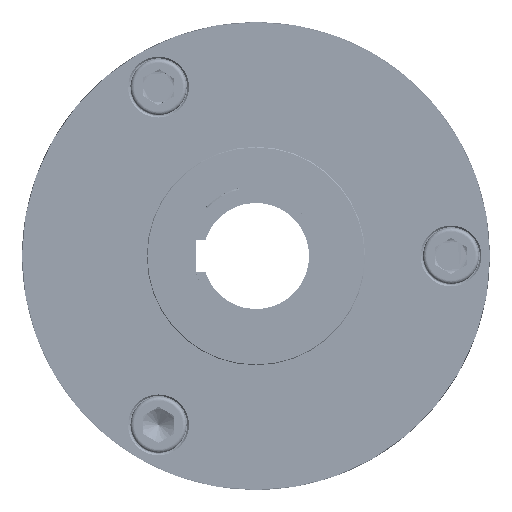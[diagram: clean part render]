
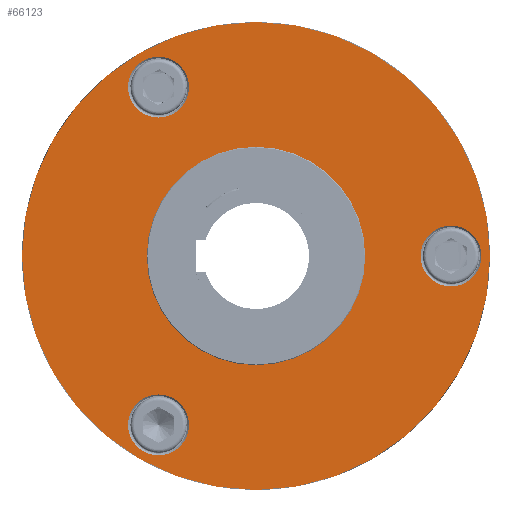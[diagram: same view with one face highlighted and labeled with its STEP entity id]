
A CAD part, left-side view. The second image highlights one B-rep face of the part: STEP entity #66123.
In plain terms, the highlighted planar face has unit normal (-1, 0, 0).
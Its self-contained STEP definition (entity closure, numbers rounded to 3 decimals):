
#8100=FACE_BOUND('',#14573,.T.);
#8101=FACE_BOUND('',#14574,.T.);
#8102=FACE_BOUND('',#14575,.T.);
#8103=FACE_BOUND('',#14576,.T.);
#8676=PLANE('',#69747);
#11057=FACE_OUTER_BOUND('',#14572,.T.);
#14572=EDGE_LOOP('',(#45310));
#14573=EDGE_LOOP('',(#45311));
#14574=EDGE_LOOP('',(#45312));
#14575=EDGE_LOOP('',(#45313));
#14576=EDGE_LOOP('',(#45314));
#24283=CIRCLE('',#69729,75.);
#24292=CIRCLE('',#69744,9.75);
#24295=CIRCLE('',#69748,9.75);
#24296=CIRCLE('',#69749,35.);
#24297=CIRCLE('',#69750,9.75);
#27612=VERTEX_POINT('',#101678);
#27624=VERTEX_POINT('',#101753);
#27627=VERTEX_POINT('',#101761);
#27628=VERTEX_POINT('',#101763);
#27629=VERTEX_POINT('',#101765);
#34664=EDGE_CURVE('',#27612,#27612,#24283,.T.);
#34685=EDGE_CURVE('',#27624,#27624,#24292,.T.);
#34689=EDGE_CURVE('',#27627,#27627,#24295,.T.);
#34690=EDGE_CURVE('',#27628,#27628,#24296,.T.);
#34691=EDGE_CURVE('',#27629,#27629,#24297,.T.);
#45310=ORIENTED_EDGE('',*,*,#34664,.F.);
#45311=ORIENTED_EDGE('',*,*,#34689,.F.);
#45312=ORIENTED_EDGE('',*,*,#34690,.F.);
#45313=ORIENTED_EDGE('',*,*,#34691,.F.);
#45314=ORIENTED_EDGE('',*,*,#34685,.F.);
#66123=ADVANCED_FACE('',(#11057,#8100,#8101,#8102,#8103),#8676,.F.);
#69729=AXIS2_PLACEMENT_3D('',#101679,#79465,#79466);
#69744=AXIS2_PLACEMENT_3D('',#101754,#79504,#79505);
#69747=AXIS2_PLACEMENT_3D('',#101760,#79511,#79512);
#69748=AXIS2_PLACEMENT_3D('',#101762,#79513,#79514);
#69749=AXIS2_PLACEMENT_3D('',#101764,#79515,#79516);
#69750=AXIS2_PLACEMENT_3D('',#101766,#79517,#79518);
#79465=DIRECTION('center_axis',(1.,0.,0.));
#79466=DIRECTION('ref_axis',(0.,0.5,0.866));
#79504=DIRECTION('center_axis',(-1.,0.,0.));
#79505=DIRECTION('ref_axis',(0.,-1.,0.));
#79511=DIRECTION('center_axis',(1.,0.,0.));
#79512=DIRECTION('ref_axis',(0.,0.5,0.866));
#79513=DIRECTION('center_axis',(-1.,0.,0.));
#79514=DIRECTION('ref_axis',(0.,0.5,-0.866));
#79515=DIRECTION('center_axis',(-1.,0.,0.));
#79516=DIRECTION('ref_axis',(0.,0.,
-1.));
#79517=DIRECTION('center_axis',(-1.,0.,0.));
#79518=DIRECTION('ref_axis',(0.,0.5,0.866));
#101678=CARTESIAN_POINT('',(-106.,-37.5,-64.952));
#101679=CARTESIAN_POINT('Origin',(-106.,0.,0.));
#101753=CARTESIAN_POINT('',(-106.,-52.75,0.));
#101754=CARTESIAN_POINT('Origin',(-106.,-62.5,0.));
#101760=CARTESIAN_POINT('Origin',(-106.,0.,0.));
#101761=CARTESIAN_POINT('',(-106.,26.375,-45.683));
#101762=CARTESIAN_POINT('Origin',(-106.,31.25,-54.127));
#101763=CARTESIAN_POINT('',(-106.,0.,35.));
#101764=CARTESIAN_POINT('Origin',(-106.,0.,0.));
#101765=CARTESIAN_POINT('',(-106.,26.375,45.683));
#101766=CARTESIAN_POINT('Origin',(-106.,31.25,54.127));
